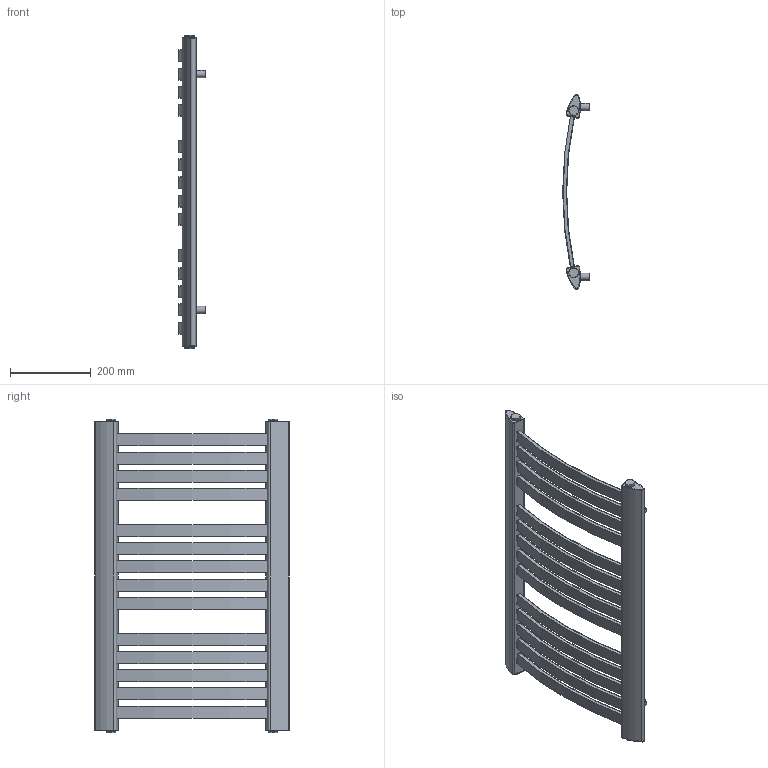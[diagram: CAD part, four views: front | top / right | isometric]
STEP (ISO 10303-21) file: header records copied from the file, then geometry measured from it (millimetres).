
FILE_DESCRIPTION(/* description */ (''),/* implementation_level */ '2;1');
FILE_NAME(/* name */ 'C:\Grzejniki\13DLUXRAD\łazienkowe\KASTOR\KASTOR 758x480.iam.stp',/* time_stamp */ '2016-06-28T17:35:06+02:00',/* author */ ('m.szydziak'),/* organization */ (''),/* preprocessor_version */ 'ST-DEVELOPER v16.5',/* originating_system */ 'Autodesk Inventor 2017',/* authorisation */ '');
FILE_SCHEMA (('AUTOMOTIVE_DESIGN { 1 0 10303 214 3 1 1 }'));
Length unit declared in the file: millimetre
Products named in the file (6): KASTOR 758x480; 30x10x384x1; 56x34x1,2x765; zaślepka 56x34 G0,5inch; uchwyt stały; korek
Assembly tree (28 placements, depth 2):
  KASTOR 758x480
    30x10x384x1  x14
    56x34x1,2x765  x2
    zaślepka 56x34 G0,5inch  x4
    uchwyt stały  x4
    korek  x4
Bounding box: 66.19 x 481.97 x 777 mm (x, y, z)
Volume: 693108.1 mm3; surface area: 1283872.1 mm2
Topology: 28 solids, 28 shells, 616 faces, 1572 edges, 1012 vertices
Faces by surface type: plane 504, cylinder 112
Full cylindrical faces by diameter (mm): 15 x4, 18 x4, 18.631 x4, 24 x4
Entity records: 4246 total; most frequent: DIRECTION 706, CARTESIAN_POINT 706, ORIENTED_EDGE 658, EDGE_CURVE 329, LINE 268, VECTOR 268, VERTEX_POINT 219, AXIS2_PLACEMENT_3D 219
